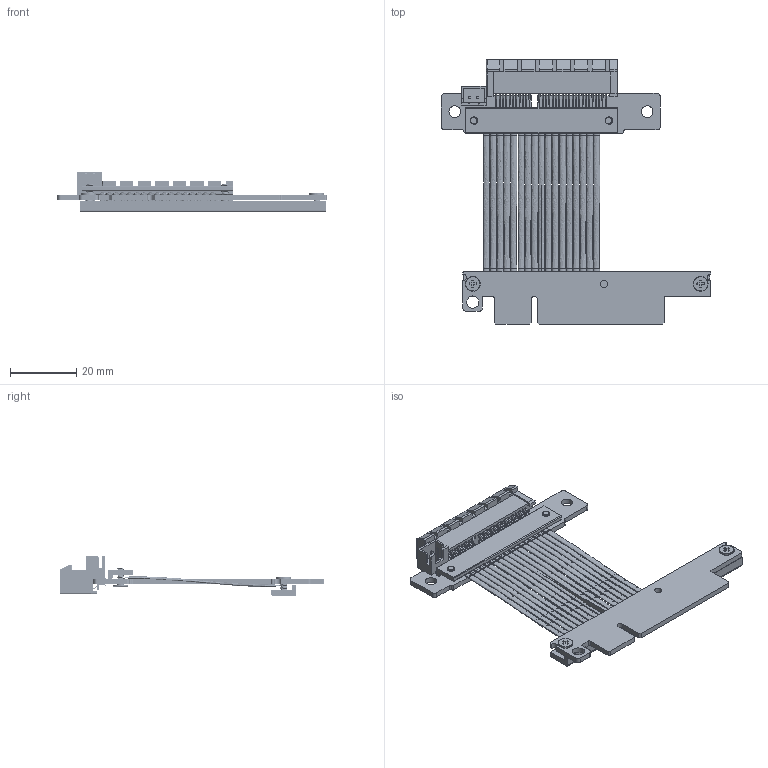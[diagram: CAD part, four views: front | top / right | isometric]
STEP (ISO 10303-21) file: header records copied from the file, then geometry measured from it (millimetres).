
FILE_DESCRIPTION(('Open CASCADE Model'),'2;1');
FILE_NAME('Open CASCADE Shape Model','2025-12-17T10:43:25',('Author'),( 'Open CASCADE'),'Open CASCADE STEP processor 7.5','Open CASCADE 7.5' ,'Unknown');
FILE_SCHEMA(('AUTOMOTIVE_DESIGN { 1 0 10303 214 1 1 1 1 }'));
Length unit declared in the file: millimetre
Products named in the file (14): PCB; Board; Open CASCADE STEP translator 7.5 6.1.1; CN1; PCIe x4    Lotes  20230510; Designator10; JST 2pin; Free-Models; M2 H=5mm 20221102_RGB4408131; R8S AI 20220810; SFPLAM300057_3D Sэ24P 20250423; SFPLAM300057_3D Sэ20P 20250423; K2F-PAD Áѹ°㟖1.0 20251030_RGB0; M2 H=5mm 20220810_RGB1315860
Assembly tree (16 placements, depth 3):
  PCB
    Board
      Open CASCADE STEP translator 7.5 6.1.1
    CN1
      PCIe x4    Lotes  20230510
    Designator10
      JST 2pin
    Free-Models
      M2 H=5mm 20221102_RGB4408131  x2
      R8S AI 20220810
      SFPLAM300057_3D Sэ24P 20250423  x2
      SFPLAM300057_3D Sэ20P 20250423
      K2F-PAD Áѹ°㟖1.0 20251030_RGB0
      M2 H=5mm 20220810_RGB1315860  x2
Bounding box: 81.16 x 79.79 x 12.05 mm (x, y, z)
Volume: 7849.6 mm3; surface area: 14808.9 mm2
Topology: 332 solids, 332 shells, 5282 faces, 11974 edges, 7440 vertices
Faces by surface type: plane 2363, cylinder 2065, bspline 838, torus 16
Full cylindrical faces by diameter (mm): 1.05 x2, 2.2 x8, 3.5 x2, 3.7 x1
Entity records: 148735 total; most frequent: CARTESIAN_POINT 42651, ORIENTED_EDGE 20412, DIRECTION 18135, EDGE_CURVE 10206, VERTEX_POINT 6314, LINE 6307, VECTOR 6307, AXIS2_PLACEMENT_3D 5914
